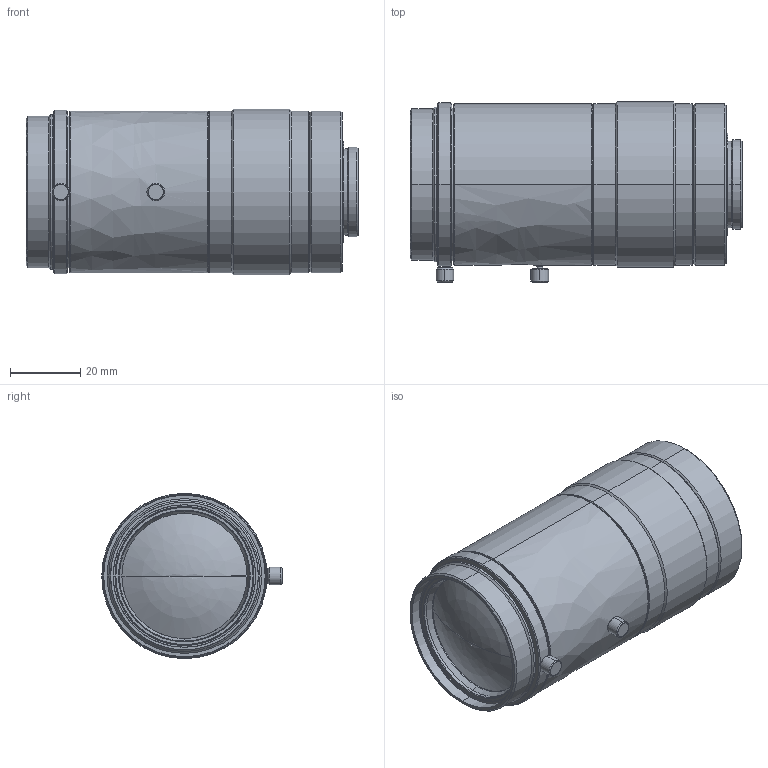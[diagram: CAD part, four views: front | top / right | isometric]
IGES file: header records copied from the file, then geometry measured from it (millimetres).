
Start section: SolidWorks IGES file using analytic representation for surfaces
Bounding box: 94.4 x 51.3 x 47 mm (x, y, z)
Surface area: 19331.9 mm2 (no closed solid volume)
Topology: 0 solids, 0 shells, 122 faces, 2378 edges, 2377 vertices
Faces by surface type: revolution 103, bspline 19
